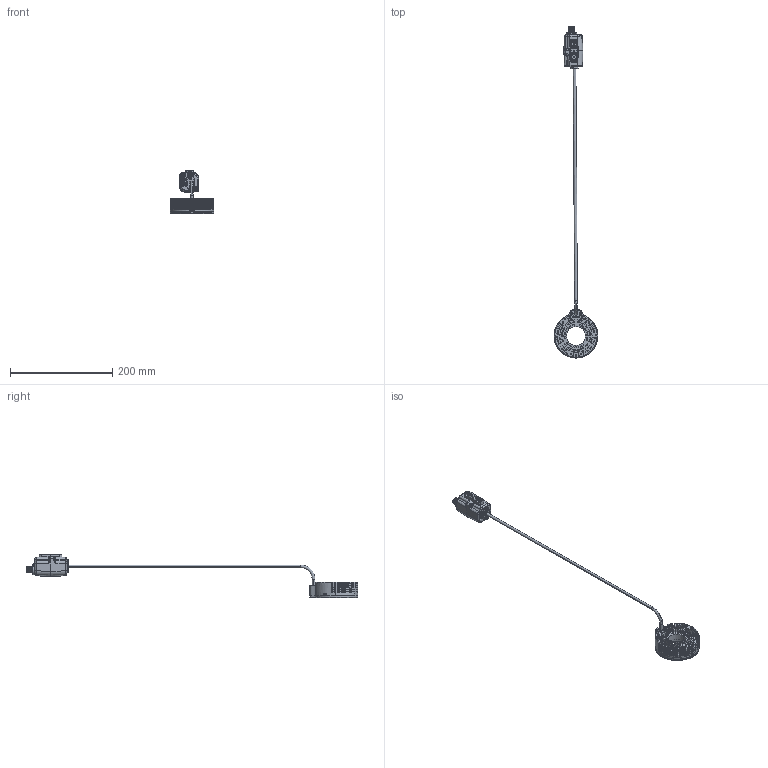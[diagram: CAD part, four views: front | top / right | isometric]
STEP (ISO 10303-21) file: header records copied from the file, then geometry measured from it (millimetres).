
FILE_DESCRIPTION (( 'STEP AP214' ), '1' );
FILE_NAME ('M-TRING-xxx-UN-DT.STEP', '2024-09-11T12:26:52', ( '' ), ( '' ), 'SwSTEP 2.0', 'SolidWorks 2021', '' );
FILE_SCHEMA (( 'AUTOMOTIVE_DESIGN' ));
Length unit declared in the file: millimetre
Products named in the file (6): M-TRING-xxx-UN-DT; AC-MTRING-xx; Cable; M2-countersunk-10mm; M-Tring-xxx-UN-DT; PSU - Customer CAD
Assembly tree (7 placements, depth 2):
  M-TRING-xxx-UN-DT
    Cable
    PSU - Customer CAD
    M2-countersunk-10mm  x3
    AC-MTRING-xx
    M-Tring-xxx-UN-DT
Bounding box: 86 x 649.9 x 84.88 mm (x, y, z)
Volume: 195892 mm3; surface area: 75256.6 mm2
Topology: 7 solids, 7 shells, 2525 faces, 6281 edges, 3869 vertices
Faces by surface type: cylinder 823, plane 759, bspline 639, cone 254, torus 50
Entity records: 92433 total; most frequent: CARTESIAN_POINT 36398, ORIENTED_EDGE 12356, DIRECTION 11104, EDGE_CURVE 6178, AXIS2_PLACEMENT_3D 4249, VERTEX_POINT 3825, EDGE_LOOP 2629, LINE 2606
